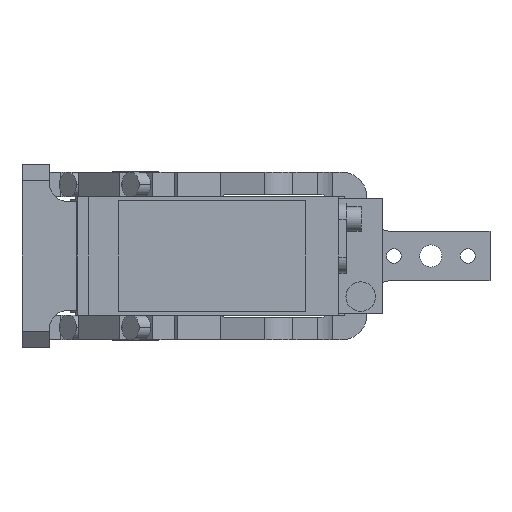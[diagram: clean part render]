
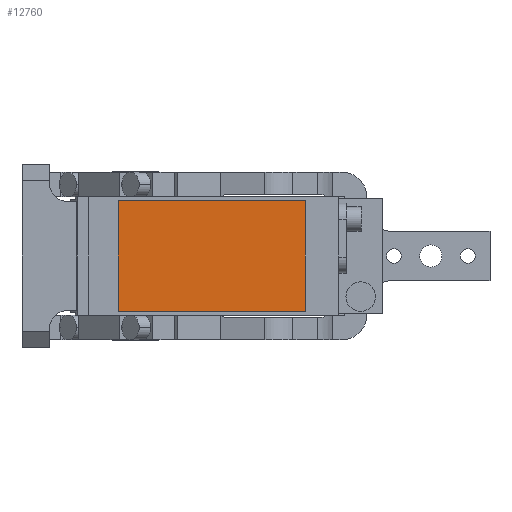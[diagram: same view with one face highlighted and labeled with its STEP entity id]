
A CAD part, front view. The second image highlights one B-rep face of the part: STEP entity #12760.
In plain terms, the highlighted planar face has unit normal (0, -1, 0).
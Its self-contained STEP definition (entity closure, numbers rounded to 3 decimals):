
#789 = EDGE_CURVE ( 'NONE', #10957, #11474, #1634, .T. ) ;
#889 = CARTESIAN_POINT ( 'NONE',  ( 0., -280.5, 0. ) ) ;
#1332 = CARTESIAN_POINT ( 'NONE',  ( -7., -280.5, -22.5 ) ) ;
#1634 = LINE ( 'NONE', #1778, #5284 ) ;
#1710 = CARTESIAN_POINT ( 'NONE',  ( -7., -280.5, -22.5 ) ) ;
#1778 = CARTESIAN_POINT ( 'NONE',  ( 69., -280.5, 22.5 ) ) ;
#1970 = VECTOR ( 'NONE', #2178, 1000. ) ;
#2178 = DIRECTION ( 'NONE',  ( 0., 0., -1. ) ) ;
#2499 = CARTESIAN_POINT ( 'NONE',  ( -7., -280.5, 22.5 ) ) ;
#2927 = CARTESIAN_POINT ( 'NONE',  ( -7., -280.5, 22.5 ) ) ;
#3696 = VECTOR ( 'NONE', #12122, 1000. ) ;
#4013 = VERTEX_POINT ( 'NONE', #1710 ) ;
#4122 = DIRECTION ( 'NONE',  ( 0., -1., 0. ) ) ;
#4512 = CARTESIAN_POINT ( 'NONE',  ( 69., -280.5, -22.5 ) ) ;
#5245 = ORIENTED_EDGE ( 'NONE', *, *, #14178, .T. ) ;
#5274 = ORIENTED_EDGE ( 'NONE', *, *, #11449, .T. ) ;
#5284 = VECTOR ( 'NONE', #5304, 1000. ) ;
#5304 = DIRECTION ( 'NONE',  ( 0., 0., 1. ) ) ;
#5337 = DIRECTION ( 'NONE',  ( 0., 0., -1. ) ) ;
#5631 = LINE ( 'NONE', #13967, #1970 ) ;
#6168 = EDGE_CURVE ( 'NONE', #11474, #9168, #8848, .T. ) ;
#7307 = ORIENTED_EDGE ( 'NONE', *, *, #6168, .T. ) ;
#7703 = DIRECTION ( 'NONE',  ( -1., 0., 0. ) ) ;
#8345 = CARTESIAN_POINT ( 'NONE',  ( 69., -280.5, 22.5 ) ) ;
#8848 = LINE ( 'NONE', #2927, #9388 ) ;
#9168 = VERTEX_POINT ( 'NONE', #2499 ) ;
#9388 = VECTOR ( 'NONE', #7703, 1000. ) ;
#10227 = AXIS2_PLACEMENT_3D ( 'NONE', #889, #4122, #5337 ) ;
#10562 = EDGE_LOOP ( 'NONE', ( #5245, #5274, #11728, #7307 ) ) ;
#10957 = VERTEX_POINT ( 'NONE', #4512 ) ;
#11205 = PLANE ( 'NONE',  #10227 ) ;
#11436 = FACE_OUTER_BOUND ( 'NONE', #10562, .T. ) ;
#11449 = EDGE_CURVE ( 'NONE', #4013, #10957, #12039, .T. ) ;
#11474 = VERTEX_POINT ( 'NONE', #8345 ) ;
#11728 = ORIENTED_EDGE ( 'NONE', *, *, #789, .T. ) ;
#12039 = LINE ( 'NONE', #1332, #3696 ) ;
#12122 = DIRECTION ( 'NONE',  ( 1., 0., 0. ) ) ;
#12760 = ADVANCED_FACE ( 'NONE', ( #11436 ), #11205, .T. ) ;
#13967 = CARTESIAN_POINT ( 'NONE',  ( -7., -280.5, 22.5 ) ) ;
#14178 = EDGE_CURVE ( 'NONE', #9168, #4013, #5631, .T. ) ;
